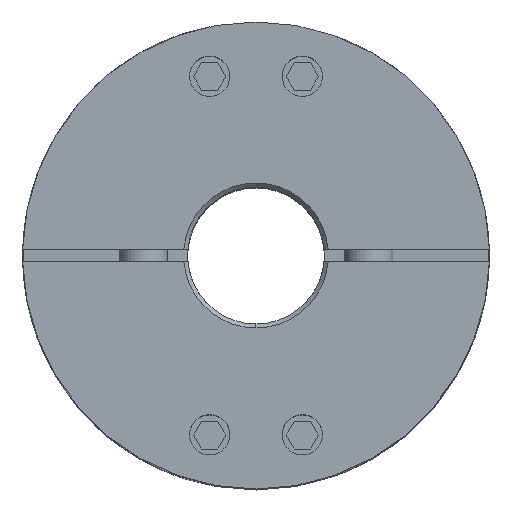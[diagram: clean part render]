
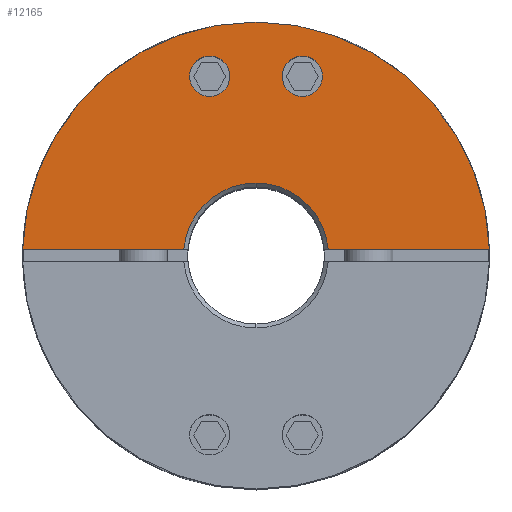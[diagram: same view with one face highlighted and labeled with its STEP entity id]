
A CAD part, top view. The second image highlights one B-rep face of the part: STEP entity #12165.
In plain terms, the highlighted planar face has unit normal (0, 0, 1).
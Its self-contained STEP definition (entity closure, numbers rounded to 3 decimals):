
#4729=CARTESIAN_POINT('',(5.759,24.767,35.75));
#4730=VERTEX_POINT('',#4729);
#4739=CARTESIAN_POINT('',(5.759,19.767,35.75));
#4740=VERTEX_POINT('',#4739);
#4741=CARTESIAN_POINT('',(5.759,22.267,35.75));
#4742=DIRECTION('',(0.0,0.0,-1.0));
#4743=DIRECTION('',(0.0,1.0,0.0));
#4744=AXIS2_PLACEMENT_3D('',#4741,#4742,#4743);
#4745=CIRCLE('',#4744,2.5);
#4746=EDGE_CURVE('',#4740,#4730,#4745,.T.);
#4771=CARTESIAN_POINT('',(-5.759,24.767,35.75));
#4772=VERTEX_POINT('',#4771);
#4781=CARTESIAN_POINT('',(-5.759,19.767,35.75));
#4782=VERTEX_POINT('',#4781);
#4783=CARTESIAN_POINT('',(-5.759,22.267,35.75));
#4784=DIRECTION('',(0.0,0.0,-1.0));
#4785=DIRECTION('',(0.0,1.0,0.0));
#4786=AXIS2_PLACEMENT_3D('',#4783,#4784,#4785);
#4787=CIRCLE('',#4786,2.5);
#4788=EDGE_CURVE('',#4782,#4772,#4787,.T.);
#5025=CARTESIAN_POINT('',(0.,29.0,35.75));
#5026=VERTEX_POINT('',#5025);
#5174=CARTESIAN_POINT('',(-28.99,0.75,35.75));
#5175=VERTEX_POINT('',#5174);
#5182=CARTESIAN_POINT('',(0.,0.0,35.75));
#5183=DIRECTION('',(0.0,0.0,-1.0));
#5184=DIRECTION('',(0.0,1.0,0.0));
#5185=AXIS2_PLACEMENT_3D('',#5182,#5183,#5184);
#5186=CIRCLE('',#5185,29.0);
#5187=EDGE_CURVE('',#5175,#5026,#5186,.T.);
#5359=CARTESIAN_POINT('',(0.,9.0,35.75));
#5360=VERTEX_POINT('',#5359);
#5376=CARTESIAN_POINT('',(8.969,0.75,35.75));
#5377=VERTEX_POINT('',#5376);
#5391=CARTESIAN_POINT('',(0.,0.0,35.75));
#5392=DIRECTION('',(0.0,0.0,1.0));
#5393=DIRECTION('',(0.0,1.0,0.0));
#5394=AXIS2_PLACEMENT_3D('',#5391,#5392,#5393);
#5395=CIRCLE('',#5394,9.0);
#5396=EDGE_CURVE('',#5377,#5360,#5395,.T.);
#11671=CARTESIAN_POINT('',(-8.969,0.75,35.75));
#11672=VERTEX_POINT('',#11671);
#11673=CARTESIAN_POINT('',(0.,0.0,35.75));
#11674=DIRECTION('',(0.0,0.0,1.0));
#11675=DIRECTION('',(0.0,1.0,0.0));
#11676=AXIS2_PLACEMENT_3D('',#11673,#11674,#11675);
#11677=CIRCLE('',#11676,9.0);
#11678=EDGE_CURVE('',#5360,#11672,#11677,.T.);
#11703=CARTESIAN_POINT('',(-28.99,0.75,35.75));
#11704=DIRECTION('',(1.0,0.0,0.0));
#11705=VECTOR('',#11704,20.022);
#11706=LINE('',#11703,#11705);
#11707=EDGE_CURVE('',#5175,#11672,#11706,.T.);
#11739=CARTESIAN_POINT('',(28.99,0.75,35.75));
#11740=VERTEX_POINT('',#11739);
#11747=CARTESIAN_POINT('',(8.969,0.75,35.75));
#11748=DIRECTION('',(1.0,0.0,0.0));
#11749=VECTOR('',#11748,20.022);
#11750=LINE('',#11747,#11749);
#11751=EDGE_CURVE('',#5377,#11740,#11750,.T.);
#11866=CARTESIAN_POINT('',(0.,0.0,35.75));
#11867=DIRECTION('',(0.0,0.0,-1.0));
#11868=DIRECTION('',(0.0,1.0,0.0));
#11869=AXIS2_PLACEMENT_3D('',#11866,#11867,#11868);
#11870=CIRCLE('',#11869,29.0);
#11871=EDGE_CURVE('',#5026,#11740,#11870,.T.);
#12104=CARTESIAN_POINT('',(-5.759,22.267,35.75));
#12105=DIRECTION('',(0.0,0.0,-1.0));
#12106=DIRECTION('',(0.0,1.0,0.0));
#12107=AXIS2_PLACEMENT_3D('',#12104,#12105,#12106);
#12108=CIRCLE('',#12107,2.5);
#12109=EDGE_CURVE('',#4772,#4782,#12108,.T.);
#12122=CARTESIAN_POINT('',(5.759,22.267,35.75));
#12123=DIRECTION('',(0.0,0.0,-1.0));
#12124=DIRECTION('',(0.0,1.0,0.0));
#12125=AXIS2_PLACEMENT_3D('',#12122,#12123,#12124);
#12126=CIRCLE('',#12125,2.5);
#12127=EDGE_CURVE('',#4730,#4740,#12126,.T.);
#12144=CARTESIAN_POINT('',(0.,2.636,35.75));
#12145=DIRECTION('',(0.0,0.0,1.0));
#12146=DIRECTION('',(0.0,1.0,0.0));
#12147=AXIS2_PLACEMENT_3D('',#12144,#12145,#12146);
#12148=PLANE('',#12147);
#12149=ORIENTED_EDGE('',*,*,#5396,.F.);
#12150=ORIENTED_EDGE('',*,*,#11751,.T.);
#12151=ORIENTED_EDGE('',*,*,#11871,.F.);
#12152=ORIENTED_EDGE('',*,*,#5187,.F.);
#12153=ORIENTED_EDGE('',*,*,#11707,.T.);
#12154=ORIENTED_EDGE('',*,*,#11678,.F.);
#12155=EDGE_LOOP('',(#12149,#12150,#12151,#12152,#12153,#12154));
#12156=FACE_OUTER_BOUND('',#12155,.T.);
#12157=ORIENTED_EDGE('',*,*,#12109,.T.);
#12158=ORIENTED_EDGE('',*,*,#4788,.T.);
#12159=EDGE_LOOP('',(#12157,#12158));
#12160=FACE_BOUND('',#12159,.T.);
#12161=ORIENTED_EDGE('',*,*,#12127,.T.);
#12162=ORIENTED_EDGE('',*,*,#4746,.T.);
#12163=EDGE_LOOP('',(#12161,#12162));
#12164=FACE_BOUND('',#12163,.T.);
#12165=ADVANCED_FACE('',(#12156,#12160,#12164),#12148,.T.);
